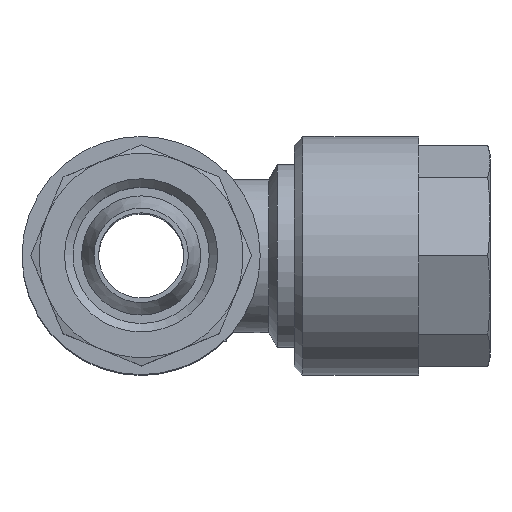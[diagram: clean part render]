
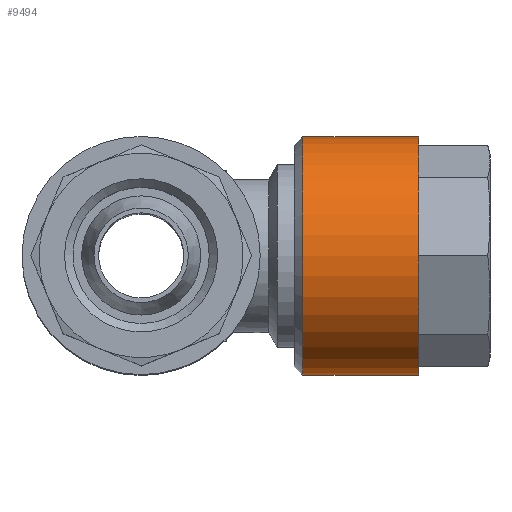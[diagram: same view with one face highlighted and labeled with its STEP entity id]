
A CAD part, top view. The second image highlights one B-rep face of the part: STEP entity #9494.
In plain terms, the highlighted cylindrical face has radius 7 mm (diameter 14 mm), a full revolution.
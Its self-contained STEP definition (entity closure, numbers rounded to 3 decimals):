
#3753=ORIENTED_EDGE('',*,*,#4401,.F.);
#3754=ORIENTED_EDGE('',*,*,#4402,.T.);
#3947=CIRCLE('',#9266,7.);
#3948=CIRCLE('',#9268,7.);
#4133=VERTEX_POINT('',#8898);
#4134=VERTEX_POINT('',#8901);
#4401=EDGE_CURVE('',#4133,#4133,#3947,.T.);
#4402=EDGE_CURVE('',#4134,#4134,#3948,.T.);
#4619=EDGE_LOOP('',(#3753));
#4620=EDGE_LOOP('',(#3754));
#4831=FACE_BOUND('',#4619,.T.);
#4832=FACE_BOUND('',#4620,.T.);
#5441=DIRECTION('',(0.,1.,0.));
#5442=DIRECTION('',(0.,0.,-7.));
#5443=DIRECTION('',(0.,1.,0.));
#5444=DIRECTION('',(1.,0.,0.));
#5445=DIRECTION('',(0.,1.,0.));
#5446=DIRECTION('',(0.,0.,7.));
#8898=CARTESIAN_POINT('',(26.989,21.895,-7.));
#8899=CARTESIAN_POINT('',(26.989,21.895,0.));
#8900=CARTESIAN_POINT('',(26.989,15.095,0.));
#8901=CARTESIAN_POINT('',(26.989,15.095,7.));
#8902=CARTESIAN_POINT('',(26.989,15.095,0.));
#9266=AXIS2_PLACEMENT_3D('',#8899,#5441,#5442);
#9267=AXIS2_PLACEMENT_3D('',#8900,#5443,#5444);
#9268=AXIS2_PLACEMENT_3D('',#8902,#5445,#5446);
#9375=CYLINDRICAL_SURFACE('',#9267,7.);
#9494=ADVANCED_FACE('',(#4831,#4832),#9375,.T.);
